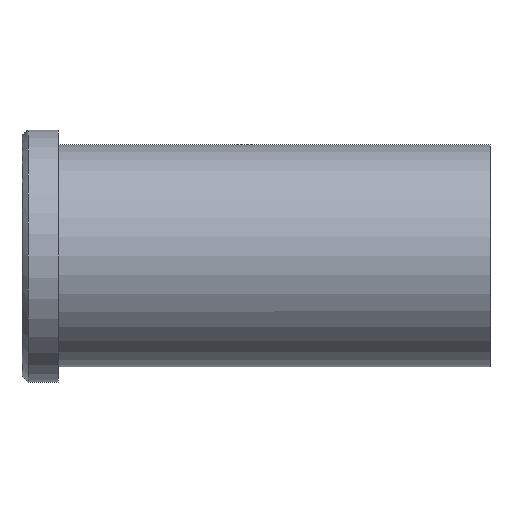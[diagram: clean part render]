
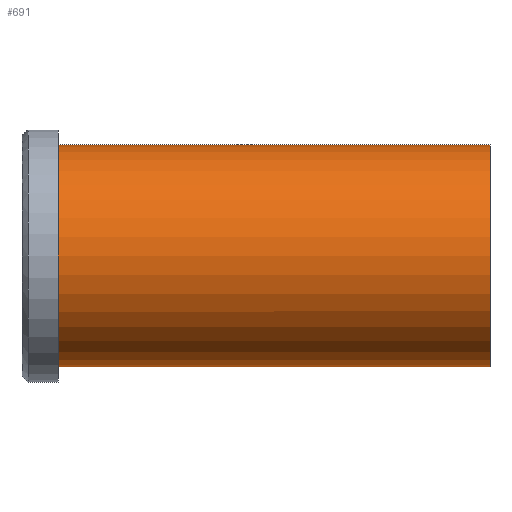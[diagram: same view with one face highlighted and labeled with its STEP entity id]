
A CAD part, front view. The second image highlights one B-rep face of the part: STEP entity #691.
In plain terms, the highlighted cylindrical face has radius 37 mm (diameter 74 mm), a partial arc.
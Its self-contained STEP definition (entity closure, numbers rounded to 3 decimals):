
#501=CARTESIAN_POINT('Vertex',(0.,0.,-37.)) ;
#506=CARTESIAN_POINT('Axis2P3D Location',(0.,0.,0.)) ;
#510=CARTESIAN_POINT('Vertex',(0.,-37.,0.)) ;
#513=CARTESIAN_POINT('Axis2P3D Location',(0.,0.,0.)) ;
#517=CARTESIAN_POINT('Vertex',(0.,0.,37.)) ;
#631=CARTESIAN_POINT('Line Origine',(144.,0.,37.)) ;
#635=CARTESIAN_POINT('Vertex',(144.,0.,37.)) ;
#649=CARTESIAN_POINT('Vertex',(144.,0.,-37.)) ;
#652=CARTESIAN_POINT('Line Origine',(144.,0.,-37.)) ;
#666=CARTESIAN_POINT('Axis2P3D Location',(144.,0.,0.)) ;
#671=CARTESIAN_POINT('Axis2P3D Location',(144.,0.,0.)) ;
#675=CARTESIAN_POINT('Vertex',(144.,-37.,0.)) ;
#678=CARTESIAN_POINT('Axis2P3D Location',(144.,0.,0.)) ;
#507=DIRECTION('Axis2P3D Direction',(1.,0.,-0.)) ;
#514=DIRECTION('Axis2P3D Direction',(1.,0.,-0.)) ;
#632=DIRECTION('Vector Direction',(-1.,0.,0.)) ;
#653=DIRECTION('Vector Direction',(-1.,0.,0.)) ;
#667=DIRECTION('Axis2P3D Direction',(-1.,-0.,-0.)) ;
#668=DIRECTION('Axis2P3D XDirection',(0.,0.,-1.)) ;
#672=DIRECTION('Axis2P3D Direction',(-1.,-0.,-0.)) ;
#679=DIRECTION('Axis2P3D Direction',(-1.,-0.,-0.)) ;
#508=AXIS2_PLACEMENT_3D('Circle Axis2P3D',#506,#507,$) ;
#515=AXIS2_PLACEMENT_3D('Circle Axis2P3D',#513,#514,$) ;
#669=AXIS2_PLACEMENT_3D('Cylinder Axis2P3D',#666,#667,#668) ;
#673=AXIS2_PLACEMENT_3D('Circle Axis2P3D',#671,#672,$) ;
#680=AXIS2_PLACEMENT_3D('Circle Axis2P3D',#678,#679,$) ;
#684=ORIENTED_EDGE('',*,*,#656,.T.) ;
#685=ORIENTED_EDGE('',*,*,#677,.F.) ;
#686=ORIENTED_EDGE('',*,*,#682,.F.) ;
#687=ORIENTED_EDGE('',*,*,#637,.T.) ;
#688=ORIENTED_EDGE('',*,*,#519,.T.) ;
#689=ORIENTED_EDGE('',*,*,#512,.T.) ;
#633=VECTOR('Line Direction',#632,1.) ;
#654=VECTOR('Line Direction',#653,1.) ;
#691=ADVANCED_FACE('353-60x156',(#690),#670,.T.) ;
#509=CIRCLE('generated circle',#508,37.) ;
#516=CIRCLE('generated circle',#515,37.) ;
#674=CIRCLE('generated circle',#673,37.) ;
#681=CIRCLE('generated circle',#680,37.) ;
#670=CYLINDRICAL_SURFACE('generated cylinder',#669,37.) ;
#512=EDGE_CURVE('',#511,#502,#509,.T.) ;
#519=EDGE_CURVE('',#518,#511,#516,.T.) ;
#637=EDGE_CURVE('',#636,#518,#634,.T.) ;
#656=EDGE_CURVE('',#502,#650,#655,.F.) ;
#677=EDGE_CURVE('',#676,#650,#674,.F.) ;
#682=EDGE_CURVE('',#636,#676,#681,.F.) ;
#683=EDGE_LOOP('',(#684,#685,#686,#687,#688,#689)) ;
#690=FACE_OUTER_BOUND('',#683,.T.) ;
#634=LINE('Line',#631,#633) ;
#655=LINE('Line',#652,#654) ;
#502=VERTEX_POINT('',#501) ;
#511=VERTEX_POINT('',#510) ;
#518=VERTEX_POINT('',#517) ;
#636=VERTEX_POINT('',#635) ;
#650=VERTEX_POINT('',#649) ;
#676=VERTEX_POINT('',#675) ;
